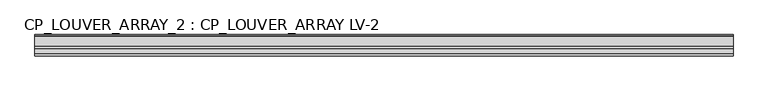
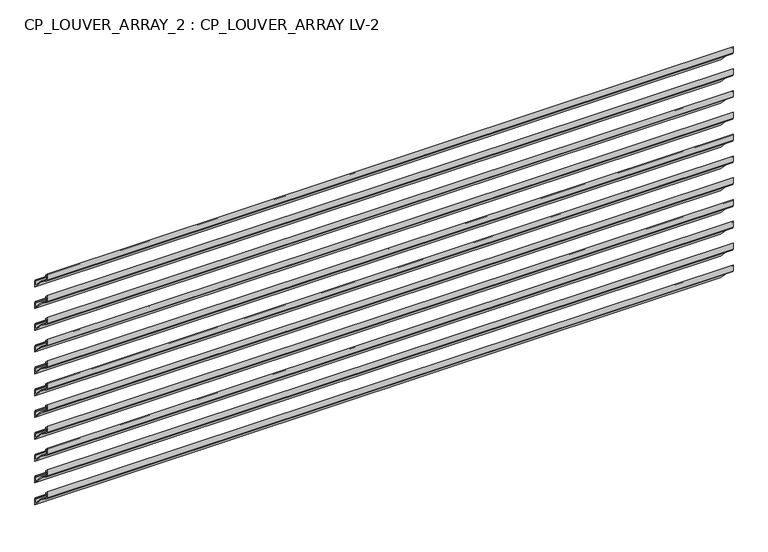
"""IFC4 building model written with IfcOpenShell, lengths in millimetres: plate geometry, CP_LOUVER_ARRAY_2 : CP_LOUVER_ARRAY LV-2."""

from ifc_helpers import new_model, si_unit, origin, place, context, project, spatial, faceted_brep, source, transform, mapped, element, save


def cp_louver_array_2_cp_louver_array_lv_2_90e94900(model_context):
    return source(origin(), model_context, "Body", "Brep", [
        faceted_brep([(755.65, -96.3393096, 549.1190525), (755.65, -69.85, 520.7127457), (755.65, -69.85, 534.5844296), (755.65, -71.4632993, 537.7754075), (755.65, -73.025, 538.925084), (755.65, -73.025, 537.0326554), (755.65, -71.374, 534.5844296), (755.65, -71.374, 524.5816451), (755.65, -94.5749864, 549.4506311), (755.65, -99.9681804, 553.3028259), (755.65, -113.6250477, 562.9600681), (755.65, -114.6556, 564.9509873), (755.65, -114.6556, 574.9060452), (755.65, -111.4806, 571.5012746), (755.65, -111.4806, 573.735884), (755.65, -116.1796, 578.7749446), (755.65, -116.1796, 564.9509873), (755.65, -114.5049525, 561.7157436), (755.65, -100.8480853, 552.0585014), (-755.65, -96.3393096, 549.1190525), (-755.65, -100.8480853, 552.0585014), (-755.65, -114.5049525, 561.7157436), (-755.65, -116.1796, 564.9509873), (-755.65, -116.1796, 578.7749446), (-755.65, -111.4806, 573.735884), (-755.65, -111.4806, 571.5012746), (-755.65, -114.6556, 574.9060452), (-755.65, -114.6556, 564.9509873), (-755.65, -113.6250477, 562.9600681), (-755.65, -99.9681804, 553.3028259), (-755.65, -94.5749864, 549.4506311), (-755.65, -71.3542993, 524.6000536), (-755.65, -71.374, 534.5844296), (-755.65, -73.025, 537.0326554), (-755.65, -73.025, 538.925084), (-755.65, -71.4632993, 537.7754075), (-755.65, -69.85, 534.5844296), (-755.65, -69.85, 520.7127457)], [[[0, 1, 2, 3, 4, 5, 6, 7, 8, 9, 10, 11, 12, 13, 14, 15, 16, 17, 18]], [[19, 20, 21, 22, 23, 24, 25, 26, 27, 28, 29, 30, 31, 32, 33, 34, 35, 36, 37]], [[1, 0, 19, 37]], [[2, 1, 37, 36]], [[3, 2, 36, 35]], [[4, 3, 35, 34]], [[5, 4, 34, 33]], [[6, 5, 33, 32]], [[7, 6, 32, 31]], [[7, 31, 30, 8]], [[9, 8, 30, 29]], [[10, 9, 29, 28]], [[11, 10, 28, 27]], [[12, 11, 27, 26]], [[13, 12, 26, 25]], [[14, 13, 25, 24]], [[15, 14, 24, 23]], [[16, 15, 23, 22]], [[17, 16, 22, 21]], [[18, 17, 21, 20]], [[0, 18, 20, 19]]]),
        faceted_brep([(755.65, -96.3393096, 498.3177779), (755.65, -69.85, 469.9114711), (755.65, -69.85, 483.7831551), (755.65, -71.4632993, 486.9741329), (755.65, -73.025, 488.1238094), (755.65, -73.025, 486.2313808), (755.65, -71.374, 483.7831551), (755.65, -71.374, 473.7803705), (755.65, -94.5749864, 498.6493565), (755.65, -99.9681804, 502.5015513), (755.65, -113.6250477, 512.1587935), (755.65, -114.6556, 514.1497128), (755.65, -114.6556, 524.1047707), (755.65, -111.4806, 520.7), (755.65, -111.4806, 522.9346095), (755.65, -116.1796, 527.97367), (755.65, -116.1796, 514.1497128), (755.65, -114.5049525, 510.914469), (755.65, -100.8480853, 501.2572268), (-755.65, -96.3393096, 498.3177779), (-755.65, -100.8480853, 501.2572268), (-755.65, -114.5049525, 510.914469), (-755.65, -116.1796, 514.1497128), (-755.65, -116.1796, 527.97367), (-755.65, -111.4806, 522.9346095), (-755.65, -111.4806, 520.7), (-755.65, -114.6556, 524.1047707), (-755.65, -114.6556, 514.1497128), (-755.65, -113.6250477, 512.1587935), (-755.65, -99.9681804, 502.5015513), (-755.65, -94.5749864, 498.6493565), (-755.65, -71.3542993, 473.798779), (-755.65, -71.374, 483.7831551), (-755.65, -73.025, 486.2313808), (-755.65, -73.025, 488.1238094), (-755.65, -71.4632993, 486.9741329), (-755.65, -69.85, 483.7831551), (-755.65, -69.85, 469.9114711)], [[[0, 1, 2, 3, 4, 5, 6, 7, 8, 9, 10, 11, 12, 13, 14, 15, 16, 17, 18]], [[19, 20, 21, 22, 23, 24, 25, 26, 27, 28, 29, 30, 31, 32, 33, 34, 35, 36, 37]], [[1, 0, 19, 37]], [[2, 1, 37, 36]], [[3, 2, 36, 35]], [[4, 3, 35, 34]], [[5, 4, 34, 33]], [[6, 5, 33, 32]], [[7, 6, 32, 31]], [[7, 31, 30, 8]], [[9, 8, 30, 29]], [[10, 9, 29, 28]], [[11, 10, 28, 27]], [[12, 11, 27, 26]], [[13, 12, 26, 25]], [[14, 13, 25, 24]], [[15, 14, 24, 23]], [[16, 15, 23, 22]], [[17, 16, 22, 21]], [[18, 17, 21, 20]], [[0, 18, 20, 19]]]),
        faceted_brep([(755.65, -96.3393096, 447.5165033), (755.65, -69.85, 419.1101965), (755.65, -69.85, 432.9818805), (755.65, -71.4632993, 436.1728583), (755.65, -73.025, 437.3225348), (755.65, -73.025, 435.4301063), (755.65, -71.374, 432.9818805), (755.65, -71.374, 422.9790959), (755.65, -94.5749864, 447.8480819), (755.65, -99.9681804, 451.7002768), (755.65, -113.6250477, 461.357519), (755.65, -114.6556, 463.3484382), (755.65, -114.6556, 473.3034961), (755.65, -111.4806, 469.8987254), (755.65, -111.4806, 472.1333349), (755.65, -116.1796, 477.1723955), (755.65, -116.1796, 463.3484382), (755.65, -114.5049525, 460.1131944), (755.65, -100.8480853, 450.4559523), (-755.65, -96.3393096, 447.5165033), (-755.65, -100.8480853, 450.4559523), (-755.65, -114.5049525, 460.1131944), (-755.65, -116.1796, 463.3484382), (-755.65, -116.1796, 477.1723955), (-755.65, -111.4806, 472.1333349), (-755.65, -111.4806, 469.8987254), (-755.65, -114.6556, 473.3034961), (-755.65, -114.6556, 463.3484382), (-755.65, -113.6250477, 461.357519), (-755.65, -99.9681804, 451.7002768), (-755.65, -94.5749864, 447.8480819), (-755.65, -71.3542993, 422.9975045), (-755.65, -71.374, 432.9818805), (-755.65, -73.025, 435.4301063), (-755.65, -73.025, 437.3225348), (-755.65, -71.4632993, 436.1728583), (-755.65, -69.85, 432.9818805), (-755.65, -69.85, 419.1101965)], [[[0, 1, 2, 3, 4, 5, 6, 7, 8, 9, 10, 11, 12, 13, 14, 15, 16, 17, 18]], [[19, 20, 21, 22, 23, 24, 25, 26, 27, 28, 29, 30, 31, 32, 33, 34, 35, 36, 37]], [[1, 0, 19, 37]], [[2, 1, 37, 36]], [[3, 2, 36, 35]], [[4, 3, 35, 34]], [[5, 4, 34, 33]], [[6, 5, 33, 32]], [[7, 6, 32, 31]], [[7, 31, 30, 8]], [[9, 8, 30, 29]], [[10, 9, 29, 28]], [[11, 10, 28, 27]], [[12, 11, 27, 26]], [[13, 12, 26, 25]], [[14, 13, 25, 24]], [[15, 14, 24, 23]], [[16, 15, 23, 22]], [[17, 16, 22, 21]], [[18, 17, 21, 20]], [[0, 18, 20, 19]]]),
        faceted_brep([(755.65, -96.3393096, 396.7152288), (755.65, -69.85, 368.308922), (755.65, -69.85, 382.1806059), (755.65, -71.4632993, 385.3715838), (755.65, -73.025, 386.5212603), (755.65, -73.025, 384.6288317), (755.65, -71.374, 382.1806059), (755.65, -71.374, 372.1778214), (755.65, -94.5749864, 397.0468074), (755.65, -99.9681804, 400.8990022), (755.65, -113.6250477, 410.5562444), (755.65, -114.6556, 412.5471636), (755.65, -114.6556, 422.5022215), (755.65, -111.4806, 419.0974509), (755.65, -111.4806, 421.3320603), (755.65, -116.1796, 426.3711209), (755.65, -116.1796, 412.5471636), (755.65, -114.5049525, 409.3119199), (755.65, -100.8480853, 399.6546777), (-755.65, -96.3393096, 396.7152288), (-755.65, -100.8480853, 399.6546777), (-755.65, -114.5049525, 409.3119199), (-755.65, -116.1796, 412.5471636), (-755.65, -116.1796, 426.3711209), (-755.65, -111.4806, 421.3320603), (-755.65, -111.4806, 419.0974509), (-755.65, -114.6556, 422.5022215), (-755.65, -114.6556, 412.5471636), (-755.65, -113.6250477, 410.5562444), (-755.65, -99.9681804, 400.8990022), (-755.65, -94.5749864, 397.0468074), (-755.65, -71.3542993, 372.1962299), (-755.65, -71.374, 382.1806059), (-755.65, -73.025, 384.6288317), (-755.65, -73.025, 386.5212603), (-755.65, -71.4632993, 385.3715838), (-755.65, -69.85, 382.1806059), (-755.65, -69.85, 368.308922)], [[[0, 1, 2, 3, 4, 5, 6, 7, 8, 9, 10, 11, 12, 13, 14, 15, 16, 17, 18]], [[19, 20, 21, 22, 23, 24, 25, 26, 27, 28, 29, 30, 31, 32, 33, 34, 35, 36, 37]], [[1, 0, 19, 37]], [[2, 1, 37, 36]], [[3, 2, 36, 35]], [[4, 3, 35, 34]], [[5, 4, 34, 33]], [[6, 5, 33, 32]], [[7, 6, 32, 31]], [[7, 31, 30, 8]], [[9, 8, 30, 29]], [[10, 9, 29, 28]], [[11, 10, 28, 27]], [[12, 11, 27, 26]], [[13, 12, 26, 25]], [[14, 13, 25, 24]], [[15, 14, 24, 23]], [[16, 15, 23, 22]], [[17, 16, 22, 21]], [[18, 17, 21, 20]], [[0, 18, 20, 19]]]),
        faceted_brep([(755.65, -96.3393096, 345.9139542), (755.65, -69.85, 317.5076474), (755.65, -69.85, 331.3793314), (755.65, -71.4632993, 334.5703092), (755.65, -73.025, 335.7199857), (755.65, -73.025, 333.8275571), (755.65, -71.374, 331.3793314), (755.65, -71.374, 321.3765468), (755.65, -94.5749864, 346.2455328), (755.65, -99.9681804, 350.0977276), (755.65, -113.6250477, 359.7549698), (755.65, -114.6556, 361.7458891), (755.65, -114.6556, 371.7009469), (755.65, -111.4806, 368.2961763), (755.65, -111.4806, 370.5307858), (755.65, -116.1796, 375.5698463), (755.65, -116.1796, 361.7458891), (755.65, -114.5049525, 358.5106453), (755.65, -100.8480853, 348.8534031), (-755.65, -96.3393096, 345.9139542), (-755.65, -100.8480853, 348.8534031), (-755.65, -114.5049525, 358.5106453), (-755.65, -116.1796, 361.7458891), (-755.65, -116.1796, 375.5698463), (-755.65, -111.4806, 370.5307858), (-755.65, -111.4806, 368.2961763), (-755.65, -114.6556, 371.7009469), (-755.65, -114.6556, 361.7458891), (-755.65, -113.6250477, 359.7549698), (-755.65, -99.9681804, 350.0977276), (-755.65, -94.5749864, 346.2455328), (-755.65, -71.3542993, 321.3949553), (-755.65, -71.374, 331.3793314), (-755.65, -73.025, 333.8275571), (-755.65, -73.025, 335.7199857), (-755.65, -71.4632993, 334.5703092), (-755.65, -69.85, 331.3793314), (-755.65, -69.85, 317.5076474)], [[[0, 1, 2, 3, 4, 5, 6, 7, 8, 9, 10, 11, 12, 13, 14, 15, 16, 17, 18]], [[19, 20, 21, 22, 23, 24, 25, 26, 27, 28, 29, 30, 31, 32, 33, 34, 35, 36, 37]], [[1, 0, 19, 37]], [[2, 1, 37, 36]], [[3, 2, 36, 35]], [[4, 3, 35, 34]], [[5, 4, 34, 33]], [[6, 5, 33, 32]], [[7, 6, 32, 31]], [[7, 31, 30, 8]], [[9, 8, 30, 29]], [[10, 9, 29, 28]], [[11, 10, 28, 27]], [[12, 11, 27, 26]], [[13, 12, 26, 25]], [[14, 13, 25, 24]], [[15, 14, 24, 23]], [[16, 15, 23, 22]], [[17, 16, 22, 21]], [[18, 17, 21, 20]], [[0, 18, 20, 19]]]),
        faceted_brep([(755.65, -96.3393096, 295.1126796), (755.65, -69.85, 266.7063728), (755.65, -69.85, 280.5780568), (755.65, -71.4632993, 283.7690346), (755.65, -73.025, 284.9187111), (755.65, -73.025, 283.0262826), (755.65, -71.374, 280.5780568), (755.65, -71.374, 270.5752722), (755.65, -94.5749864, 295.4442582), (755.65, -99.9681804, 299.2964531), (755.65, -113.6250477, 308.9536953), (755.65, -114.6556, 310.9446145), (755.65, -114.6556, 320.8996724), (755.65, -111.4806, 317.4949017), (755.65, -111.4806, 319.7295112), (755.65, -116.1796, 324.7685718), (755.65, -116.1796, 310.9446145), (755.65, -114.5049525, 307.7093707), (755.65, -100.8480853, 298.0521286), (-755.65, -96.3393096, 295.1126796), (-755.65, -100.8480853, 298.0521286), (-755.65, -114.5049525, 307.7093707), (-755.65, -116.1796, 310.9446145), (-755.65, -116.1796, 324.7685718), (-755.65, -111.4806, 319.7295112), (-755.65, -111.4806, 317.4949017), (-755.65, -114.6556, 320.8996724), (-755.65, -114.6556, 310.9446145), (-755.65, -113.6250477, 308.9536953), (-755.65, -99.9681804, 299.2964531), (-755.65, -94.5749864, 295.4442582), (-755.65, -71.3542993, 270.5936808), (-755.65, -71.374, 280.5780568), (-755.65, -73.025, 283.0262826), (-755.65, -73.025, 284.9187111), (-755.65, -71.4632993, 283.7690346), (-755.65, -69.85, 280.5780568), (-755.65, -69.85, 266.7063728)], [[[0, 1, 2, 3, 4, 5, 6, 7, 8, 9, 10, 11, 12, 13, 14, 15, 16, 17, 18]], [[19, 20, 21, 22, 23, 24, 25, 26, 27, 28, 29, 30, 31, 32, 33, 34, 35, 36, 37]], [[1, 0, 19, 37]], [[2, 1, 37, 36]], [[3, 2, 36, 35]], [[4, 3, 35, 34]], [[5, 4, 34, 33]], [[6, 5, 33, 32]], [[7, 6, 32, 31]], [[7, 31, 30, 8]], [[9, 8, 30, 29]], [[10, 9, 29, 28]], [[11, 10, 28, 27]], [[12, 11, 27, 26]], [[13, 12, 26, 25]], [[14, 13, 25, 24]], [[15, 14, 24, 23]], [[16, 15, 23, 22]], [[17, 16, 22, 21]], [[18, 17, 21, 20]], [[0, 18, 20, 19]]]),
        faceted_brep([(755.65, -96.3393096, 244.3114051), (755.65, -69.85, 215.9050983), (755.65, -69.85, 229.7767822), (755.65, -71.4632993, 232.9677601), (755.65, -73.025, 234.1174365), (755.65, -73.025, 232.225008), (755.65, -71.374, 229.7767822), (755.65, -71.374, 219.7739977), (755.65, -94.5749864, 244.6429837), (755.65, -99.9681804, 248.4951785), (755.65, -113.6250477, 258.1524207), (755.65, -114.6556, 260.1433399), (755.65, -114.6556, 270.0983978), (755.65, -111.4806, 266.6936272), (755.65, -111.4806, 268.9282366), (755.65, -116.1796, 273.9672972), (755.65, -116.1796, 260.1433399), (755.65, -114.5049525, 256.9080962), (755.65, -100.8480853, 247.250854), (-755.65, -96.3393096, 244.3114051), (-755.65, -100.8480853, 247.250854), (-755.65, -114.5049525, 256.9080962), (-755.65, -116.1796, 260.1433399), (-755.65, -116.1796, 273.9672972), (-755.65, -111.4806, 268.9282366), (-755.65, -111.4806, 266.6936272), (-755.65, -114.6556, 270.0983978), (-755.65, -114.6556, 260.1433399), (-755.65, -113.6250477, 258.1524207), (-755.65, -99.9681804, 248.4951785), (-755.65, -94.5749864, 244.6429837), (-755.65, -71.3542993, 219.7924062), (-755.65, -71.374, 229.7767822), (-755.65, -73.025, 232.225008), (-755.65, -73.025, 234.1174365), (-755.65, -71.4632993, 232.9677601), (-755.65, -69.85, 229.7767822), (-755.65, -69.85, 215.9050983)], [[[0, 1, 2, 3, 4, 5, 6, 7, 8, 9, 10, 11, 12, 13, 14, 15, 16, 17, 18]], [[19, 20, 21, 22, 23, 24, 25, 26, 27, 28, 29, 30, 31, 32, 33, 34, 35, 36, 37]], [[1, 0, 19, 37]], [[2, 1, 37, 36]], [[3, 2, 36, 35]], [[4, 3, 35, 34]], [[5, 4, 34, 33]], [[6, 5, 33, 32]], [[7, 6, 32, 31]], [[7, 31, 30, 8]], [[9, 8, 30, 29]], [[10, 9, 29, 28]], [[11, 10, 28, 27]], [[12, 11, 27, 26]], [[13, 12, 26, 25]], [[14, 13, 25, 24]], [[15, 14, 24, 23]], [[16, 15, 23, 22]], [[17, 16, 22, 21]], [[18, 17, 21, 20]], [[0, 18, 20, 19]]]),
        faceted_brep([(755.65, -96.3393096, 193.5101305), (755.65, -69.85, 165.1038237), (755.65, -69.85, 178.9755076), (755.65, -71.4632993, 182.1664855), (755.65, -73.025, 183.316162), (755.65, -73.025, 181.4237334), (755.65, -71.374, 178.9755076), (755.65, -71.374, 168.9727231), (755.65, -94.5749864, 193.8417091), (755.65, -99.9681804, 197.6939039), (755.65, -113.6250477, 207.3511461), (755.65, -114.6556, 209.3420654), (755.65, -114.6556, 219.2971232), (755.65, -111.4806, 215.8923526), (755.65, -111.4806, 218.1269621), (755.65, -116.1796, 223.1660226), (755.65, -116.1796, 209.3420654), (755.65, -114.5049525, 206.1068216), (755.65, -100.8480853, 196.4495794), (-755.65, -96.3393096, 193.5101305), (-755.65, -100.8480853, 196.4495794), (-755.65, -114.5049525, 206.1068216), (-755.65, -116.1796, 209.3420654), (-755.65, -116.1796, 223.1660226), (-755.65, -111.4806, 218.1269621), (-755.65, -111.4806, 215.8923526), (-755.65, -114.6556, 219.2971232), (-755.65, -114.6556, 209.3420654), (-755.65, -113.6250477, 207.3511461), (-755.65, -99.9681804, 197.6939039), (-755.65, -94.5749864, 193.8417091), (-755.65, -71.3542993, 168.9911316), (-755.65, -71.374, 178.9755076), (-755.65, -73.025, 181.4237334), (-755.65, -73.025, 183.316162), (-755.65, -71.4632993, 182.1664855), (-755.65, -69.85, 178.9755076), (-755.65, -69.85, 165.1038237)], [[[0, 1, 2, 3, 4, 5, 6, 7, 8, 9, 10, 11, 12, 13, 14, 15, 16, 17, 18]], [[19, 20, 21, 22, 23, 24, 25, 26, 27, 28, 29, 30, 31, 32, 33, 34, 35, 36, 37]], [[1, 0, 19, 37]], [[2, 1, 37, 36]], [[3, 2, 36, 35]], [[4, 3, 35, 34]], [[5, 4, 34, 33]], [[6, 5, 33, 32]], [[7, 6, 32, 31]], [[7, 31, 30, 8]], [[9, 8, 30, 29]], [[10, 9, 29, 28]], [[11, 10, 28, 27]], [[12, 11, 27, 26]], [[13, 12, 26, 25]], [[14, 13, 25, 24]], [[15, 14, 24, 23]], [[16, 15, 23, 22]], [[17, 16, 22, 21]], [[18, 17, 21, 20]], [[0, 18, 20, 19]]]),
        faceted_brep([(755.65, -96.3393096, 142.7088559), (755.65, -69.85, 114.3025491), (755.65, -69.85, 128.1742331), (755.65, -71.4632993, 131.3652109), (755.65, -73.025, 132.5148874), (755.65, -73.025, 130.6224589), (755.65, -71.374, 128.1742331), (755.65, -71.374, 118.1714485), (755.65, -94.5749864, 143.0404345), (755.65, -99.9681804, 146.8926294), (755.65, -113.6250477, 156.5498716), (755.65, -114.6556, 158.5407908), (755.65, -114.6556, 168.4958487), (755.65, -111.4806, 165.091078), (755.65, -111.4806, 167.3256875), (755.65, -116.1796, 172.3647481), (755.65, -116.1796, 158.5407908), (755.65, -114.5049525, 155.305547), (755.65, -100.8480853, 145.6483048), (-755.65, -96.3393096, 142.7088559), (-755.65, -100.8480853, 145.6483048), (-755.65, -114.5049525, 155.305547), (-755.65, -116.1796, 158.5407908), (-755.65, -116.1796, 172.3647481), (-755.65, -111.4806, 167.3256875), (-755.65, -111.4806, 165.091078), (-755.65, -114.6556, 168.4958487), (-755.65, -114.6556, 158.5407908), (-755.65, -113.6250477, 156.5498716), (-755.65, -99.9681804, 146.8926294), (-755.65, -94.5749864, 143.0404345), (-755.65, -71.3542993, 118.1898571), (-755.65, -71.374, 128.1742331), (-755.65, -73.025, 130.6224589), (-755.65, -73.025, 132.5148874), (-755.65, -71.4632993, 131.3652109), (-755.65, -69.85, 128.1742331), (-755.65, -69.85, 114.3025491)], [[[0, 1, 2, 3, 4, 5, 6, 7, 8, 9, 10, 11, 12, 13, 14, 15, 16, 17, 18]], [[19, 20, 21, 22, 23, 24, 25, 26, 27, 28, 29, 30, 31, 32, 33, 34, 35, 36, 37]], [[1, 0, 19, 37]], [[2, 1, 37, 36]], [[3, 2, 36, 35]], [[4, 3, 35, 34]], [[5, 4, 34, 33]], [[6, 5, 33, 32]], [[7, 6, 32, 31]], [[7, 31, 30, 8]], [[9, 8, 30, 29]], [[10, 9, 29, 28]], [[11, 10, 28, 27]], [[12, 11, 27, 26]], [[13, 12, 26, 25]], [[14, 13, 25, 24]], [[15, 14, 24, 23]], [[16, 15, 23, 22]], [[17, 16, 22, 21]], [[18, 17, 21, 20]], [[0, 18, 20, 19]]]),
        faceted_brep([(755.65, -96.3393096, 91.9075814), (755.65, -69.85, 63.5012746), (755.65, -69.85, 77.3729585), (755.65, -71.4632993, 80.5639364), (755.65, -73.025, 81.7136128), (755.65, -73.025, 79.8211843), (755.65, -71.374, 77.3729585), (755.65, -71.374, 67.370174), (755.65, -94.5749864, 92.23916), (755.65, -99.9681804, 96.0913548), (755.65, -113.6250477, 105.748597), (755.65, -114.6556, 107.7395162), (755.65, -114.6556, 117.6945741), (755.65, -111.4806, 114.2898035), (755.65, -111.4806, 116.5244129), (755.65, -116.1796, 121.5634735), (755.65, -116.1796, 107.7395162), (755.65, -114.5049525, 104.5042725), (755.65, -100.8480853, 94.8470303), (-755.65, -96.3393096, 91.9075814), (-755.65, -100.8480853, 94.8470303), (-755.65, -114.5049525, 104.5042725), (-755.65, -116.1796, 107.7395162), (-755.65, -116.1796, 121.5634735), (-755.65, -111.4806, 116.5244129), (-755.65, -111.4806, 114.2898035), (-755.65, -114.6556, 117.6945741), (-755.65, -114.6556, 107.7395162), (-755.65, -113.6250477, 105.748597), (-755.65, -99.9681804, 96.0913548), (-755.65, -94.5749864, 92.23916), (-755.65, -71.3542993, 67.3885825), (-755.65, -71.374, 77.3729585), (-755.65, -73.025, 79.8211843), (-755.65, -73.025, 81.7136128), (-755.65, -71.4632993, 80.5639364), (-755.65, -69.85, 77.3729585), (-755.65, -69.85, 63.5012746)], [[[0, 1, 2, 3, 4, 5, 6, 7, 8, 9, 10, 11, 12, 13, 14, 15, 16, 17, 18]], [[19, 20, 21, 22, 23, 24, 25, 26, 27, 28, 29, 30, 31, 32, 33, 34, 35, 36, 37]], [[1, 0, 19, 37]], [[2, 1, 37, 36]], [[3, 2, 36, 35]], [[4, 3, 35, 34]], [[5, 4, 34, 33]], [[6, 5, 33, 32]], [[7, 6, 32, 31]], [[7, 31, 30, 8]], [[9, 8, 30, 29]], [[10, 9, 29, 28]], [[11, 10, 28, 27]], [[12, 11, 27, 26]], [[13, 12, 26, 25]], [[14, 13, 25, 24]], [[15, 14, 24, 23]], [[16, 15, 23, 22]], [[17, 16, 22, 21]], [[18, 17, 21, 20]], [[0, 18, 20, 19]]]),
        faceted_brep([(755.65, -96.3393096, 41.1063068), (755.65, -69.85, 12.7), (755.65, -69.85, 26.5716839), (755.65, -71.4632993, 29.7626618), (755.65, -73.025, 30.9123383), (755.65, -73.025, 29.0199097), (755.65, -71.374, 26.5716839), (755.65, -71.374, 16.5688994), (755.65, -94.5749864, 41.4378854), (755.65, -99.9681804, 45.2900802), (755.65, -113.6250477, 54.9473224), (755.65, -114.6556, 56.9382417), (755.65, -114.6556, 66.8932995), (755.65, -111.4806, 63.4885289), (755.65, -111.4806, 65.7231384), (755.65, -116.1796, 70.7621989), (755.65, -116.1796, 56.9382417), (755.65, -114.5049525, 53.7029979), (755.65, -100.8480853, 44.0457557), (-755.65, -96.3393096, 41.1063068), (-755.65, -100.8480853, 44.0457557), (-755.65, -114.5049525, 53.7029979), (-755.65, -116.1796, 56.9382417), (-755.65, -116.1796, 70.7621989), (-755.65, -111.4806, 65.7231384), (-755.65, -111.4806, 63.4885289), (-755.65, -114.6556, 66.8932995), (-755.65, -114.6556, 56.9382417), (-755.65, -113.6250477, 54.9473224), (-755.65, -99.9681804, 45.2900802), (-755.65, -94.5749864, 41.4378854), (-755.65, -71.3542993, 16.5873079), (-755.65, -71.374, 26.5716839), (-755.65, -73.025, 29.0199097), (-755.65, -73.025, 30.9123383), (-755.65, -71.4632993, 29.7626618), (-755.65, -69.85, 26.5716839), (-755.65, -69.85, 12.7)], [[[0, 1, 2, 3, 4, 5, 6, 7, 8, 9, 10, 11, 12, 13, 14, 15, 16, 17, 18]], [[19, 20, 21, 22, 23, 24, 25, 26, 27, 28, 29, 30, 31, 32, 33, 34, 35, 36, 37]], [[1, 0, 19, 37]], [[2, 1, 37, 36]], [[3, 2, 36, 35]], [[4, 3, 35, 34]], [[5, 4, 34, 33]], [[6, 5, 33, 32]], [[7, 6, 32, 31]], [[7, 31, 30, 8]], [[9, 8, 30, 29]], [[10, 9, 29, 28]], [[11, 10, 28, 27]], [[12, 11, 27, 26]], [[13, 12, 26, 25]], [[14, 13, 25, 24]], [[15, 14, 24, 23]], [[16, 15, 23, 22]], [[17, 16, 22, 21]], [[18, 17, 21, 20]], [[0, 18, 20, 19]]]),
    ])


if __name__ == "__main__":
    model = new_model("IFC4")
    model_context = context("Model", 3, world=origin())
    ifc_project = project(units=[si_unit("LENGTHUNIT", "METRE", prefix="MILLI")], contexts=[model_context])
    site = spatial("IfcSite", under=ifc_project)
    building = spatial("IfcBuilding", under=site)
    placement = place(None, origin())
    cp_louver_array_2_cp_louver_array_lv_2_shape = cp_louver_array_2_cp_louver_array_lv_2_90e94900(model_context)
    element("IfcPlate", 1, ObjectType="CP_LOUVER_ARRAY_2 : CP_LOUVER_ARRAY LV-2", at=placement, inside=building, context=model_context, shape_type="MappedRepresentation", body=[
        mapped(cp_louver_array_2_cp_louver_array_lv_2_shape, transform((0.0, 0.0, 0.0), x_axis=(1.0, 0.0, 0.0), y_axis=(0.0, 1.0, 0.0), z_axis=(0.0, 0.0, 1.0))),
    ])
    save(model, "model.ifc")
